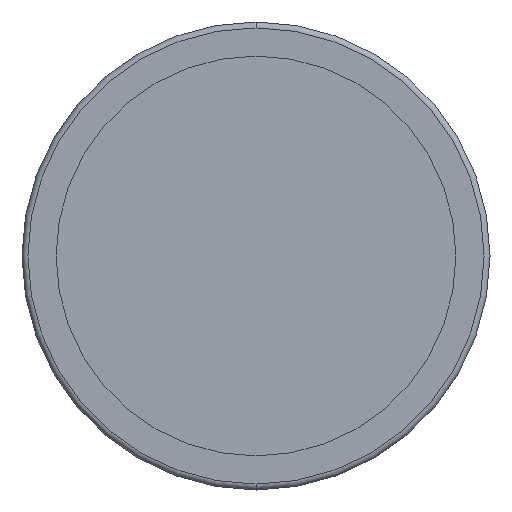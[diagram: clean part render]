
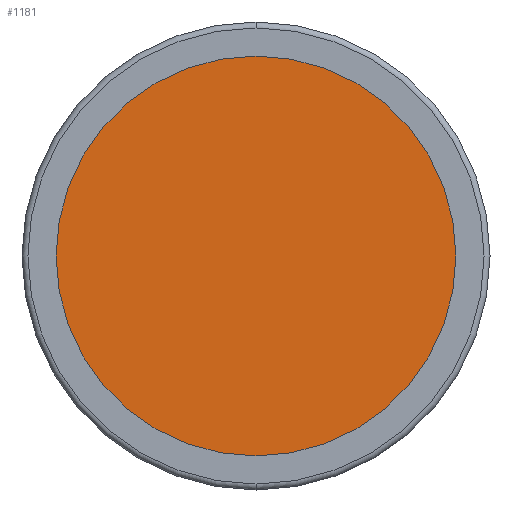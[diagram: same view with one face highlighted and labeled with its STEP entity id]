
A CAD part, front view. The second image highlights one B-rep face of the part: STEP entity #1181.
In plain terms, the highlighted planar face has unit normal (0, -1, 0).
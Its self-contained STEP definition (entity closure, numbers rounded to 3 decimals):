
#28 = ORIENTED_EDGE ( 'NONE', *, *, #2500, .F. ) ;
#74 = ORIENTED_EDGE ( 'NONE', *, *, #1524, .F. ) ;
#472 = AXIS2_PLACEMENT_3D ( 'NONE', #2611, #940, #2592 ) ;
#940 = DIRECTION ( 'NONE',  ( 0., 1., 0. ) ) ;
#966 = CARTESIAN_POINT ( 'NONE',  ( 0., -2., 33.75 ) ) ;
#1006 = CARTESIAN_POINT ( 'NONE',  ( 0., -2., 0. ) ) ;
#1026 = VERTEX_POINT ( 'NONE', #1677 ) ;
#1181 = ADVANCED_FACE ( 'NONE', ( #1190 ), #2916, .T. ) ;
#1190 = FACE_OUTER_BOUND ( 'NONE', #1356, .T. ) ;
#1205 = DIRECTION ( 'NONE',  ( 0., 1., 0. ) ) ;
#1356 = EDGE_LOOP ( 'NONE', ( #28, #74 ) ) ;
#1451 = CARTESIAN_POINT ( 'NONE',  ( -33.75, -2., 0. ) ) ;
#1524 = EDGE_CURVE ( 'NONE', #1026, #2445, #2578, .T. ) ;
#1561 = AXIS2_PLACEMENT_3D ( 'NONE', #1451, #2930, #2183 ) ;
#1675 = CIRCLE ( 'NONE', #1822, 33.75 ) ;
#1677 = CARTESIAN_POINT ( 'NONE',  ( 0., -2., -33.75 ) ) ;
#1822 = AXIS2_PLACEMENT_3D ( 'NONE', #1006, #1205, #2167 ) ;
#2167 = DIRECTION ( 'NONE',  ( 0., 0., 1. ) ) ;
#2183 = DIRECTION ( 'NONE',  ( 0., 0., -1. ) ) ;
#2445 = VERTEX_POINT ( 'NONE', #966 ) ;
#2500 = EDGE_CURVE ( 'NONE', #2445, #1026, #1675, .T. ) ;
#2578 = CIRCLE ( 'NONE', #472, 33.75 ) ;
#2592 = DIRECTION ( 'NONE',  ( 0., 0., 1. ) ) ;
#2611 = CARTESIAN_POINT ( 'NONE',  ( 0., -2., 0. ) ) ;
#2916 = PLANE ( 'NONE',  #1561 ) ;
#2930 = DIRECTION ( 'NONE',  ( 0., -1., 0. ) ) ;
